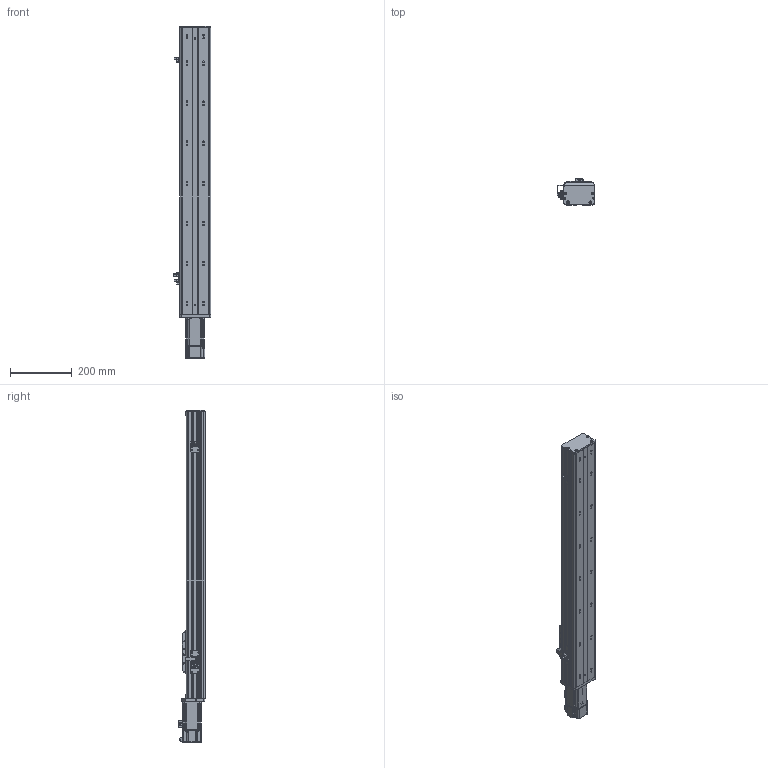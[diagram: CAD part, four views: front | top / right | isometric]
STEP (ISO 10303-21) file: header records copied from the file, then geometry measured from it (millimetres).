
FILE_DESCRIPTION (( 'STEP AP203' ), '1' );
FILE_NAME ('BOSW100-700-1610-1P-CM-M400W-O-S3（方程式2016）.step', '2020-10-10T06:35:10', ( '' ), ( '' ), 'SwSTEP 2.0', 'SolidWorks 2016', '' );
FILE_SCHEMA (( 'CONFIG_CONTROL_DESIGN' ));
Length unit declared in the file: millimetre
Products named in the file (13): BOSW100-700-1610-1P-CM-M400W-O-S3（方程式2016）; S400W(SMA-L040); BOSW&TW-100-1P-賑雄釱欶; BOSW&TW-100-俋离覜茼え; 新结构AIMSW-100-1P-宽&高轨共用-滑动座上组件; BOSW-100-1P-CM-宽轨-钢带-700客户图纸; BOSW-100-1P-CM-700諦誧芞; BOSW&TW-100-詩湍揤沭(陔賦凳); BOSW-100-CM-宽轨-三菱M200W&400W马达板(新结构); 俋境嫖覜嘐隅啣; 放大器内置U型微型光电传感器PM-L65; BOSW-100-1P-CM-宽轨-侧板-700客户图纸; BOSW-100-綴裔啣
Assembly tree (18 placements, depth 2):
  BOSW100-700-1610-1P-CM-M400W-O-S3（方程式2016）
    BOSW-100-1P-CM-700諦誧芞
    BOSW-100-綴裔啣
    新结构AIMSW-100-1P-宽&高轨共用-滑动座上组件
    S400W(SMA-L040)
    BOSW&TW-100-詩湍揤沭(陔賦凳)  x2
    BOSW&TW-100-1P-賑雄釱欶
    BOSW&TW-100-俋离覜茼え
    俋境嫖覜嘐隅啣  x3
    放大器内置U型微型光电传感器PM-L65  x3
    BOSW-100-CM-宽轨-三菱M200W&400W马达板(新结构)
    BOSW-100-1P-CM-宽轨-侧板-700客户图纸  x2
    BOSW-100-1P-CM-宽轨-钢带-700客户图纸
Bounding box: 120.9 x 85.5 x 1077.8 mm (x, y, z)
Volume: 2115381.4 mm3; surface area: 949294.7 mm2
Topology: 18 solids, 18 shells, 2523 faces, 6660 edges, 4249 vertices
Faces by surface type: plane 1226, cylinder 813, bspline 271, cone 165, torus 36, sphere 12
Entity records: 69156 total; most frequent: CARTESIAN_POINT 20762, ORIENTED_EDGE 9860, DIRECTION 9584, EDGE_CURVE 4930, AXIS2_PLACEMENT_3D 3422, VERTEX_POINT 3151, VECTOR 2740, LINE 2740
